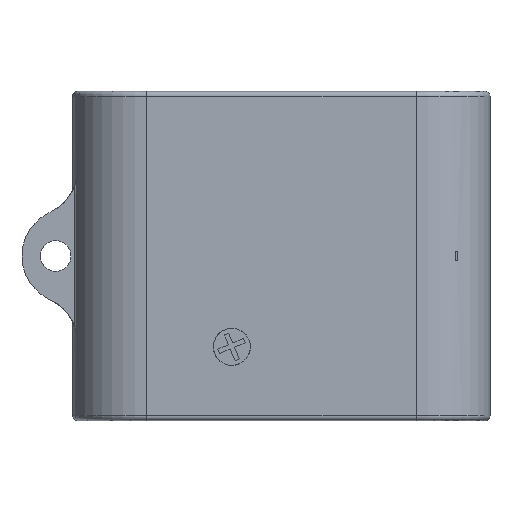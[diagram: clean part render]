
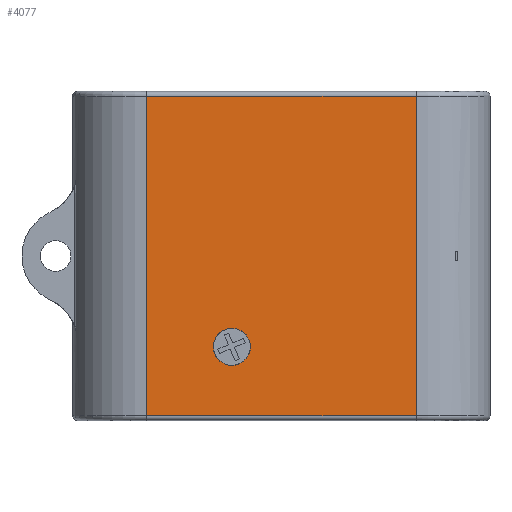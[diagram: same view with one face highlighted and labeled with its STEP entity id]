
A CAD part, front view. The second image highlights one B-rep face of the part: STEP entity #4077.
In plain terms, the highlighted planar face has unit normal (0, -1, 0).
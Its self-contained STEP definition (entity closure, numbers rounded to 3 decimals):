
#241 = CARTESIAN_POINT ( 'NONE',  ( 14.54, -7.2, -17.25 ) ) ;
#479 = ORIENTED_EDGE ( 'NONE', *, *, #3262, .T. ) ;
#689 = FACE_OUTER_BOUND ( 'NONE', #5852, .T. ) ;
#1161 = CARTESIAN_POINT ( 'NONE',  ( -14.54, -7.2, 17.25 ) ) ;
#1185 = CIRCLE ( 'NONE', #5117, 2. ) ;
#1492 = CARTESIAN_POINT ( 'NONE',  ( -14.54, -7.2, -17.25 ) ) ;
#1955 = VERTEX_POINT ( 'NONE', #6209 ) ;
#1966 = DIRECTION ( 'NONE',  ( 0., 0., -1. ) ) ;
#1984 = VECTOR ( 'NONE', #2813, 1000. ) ;
#2040 = DIRECTION ( 'NONE',  ( 1., 0., 0. ) ) ;
#2060 = CARTESIAN_POINT ( 'NONE',  ( -14.54, -7.2, -17.75 ) ) ;
#2146 = VERTEX_POINT ( 'NONE', #5862 ) ;
#2328 = DIRECTION ( 'NONE',  ( 0., -1., 0. ) ) ;
#2490 = CARTESIAN_POINT ( 'NONE',  ( -5.35, -7.2, -9.8 ) ) ;
#2563 = AXIS2_PLACEMENT_3D ( 'NONE', #5947, #2328, #5426 ) ;
#2595 = DIRECTION ( 'NONE',  ( 0., -1., 0. ) ) ;
#2813 = DIRECTION ( 'NONE',  ( 0., 0., 1. ) ) ;
#3011 = EDGE_CURVE ( 'NONE', #2146, #1955, #3536, .T. ) ;
#3078 = LINE ( 'NONE', #1161, #4440 ) ;
#3246 = EDGE_CURVE ( 'NONE', #5751, #5304, #3397, .T. ) ;
#3262 = EDGE_CURVE ( 'NONE', #4402, #4772, #4216, .T. ) ;
#3396 = EDGE_CURVE ( 'NONE', #2146, #4402, #6302, .T. ) ;
#3397 = CIRCLE ( 'NONE', #2563, 2. ) ;
#3438 = EDGE_CURVE ( 'NONE', #4772, #1955, #3078, .T. ) ;
#3536 = LINE ( 'NONE', #6568, #1984 ) ;
#3557 = VECTOR ( 'NONE', #2040, 1000. ) ;
#3653 = DIRECTION ( 'NONE',  ( -1., 0., 0. ) ) ;
#3961 = AXIS2_PLACEMENT_3D ( 'NONE', #2060, #2595, #5683 ) ;
#3962 = EDGE_CURVE ( 'NONE', #5304, #5751, #1185, .T. ) ;
#3980 = ORIENTED_EDGE ( 'NONE', *, *, #3438, .T. ) ;
#4077 = ADVANCED_FACE ( 'NONE', ( #4834, #689 ), #6166, .T. ) ;
#4168 = ORIENTED_EDGE ( 'NONE', *, *, #3246, .F. ) ;
#4216 = LINE ( 'NONE', #6559, #5416 ) ;
#4402 = VERTEX_POINT ( 'NONE', #241 ) ;
#4440 = VECTOR ( 'NONE', #3653, 1000. ) ;
#4772 = VERTEX_POINT ( 'NONE', #6353 ) ;
#4834 = FACE_BOUND ( 'NONE', #5857, .T. ) ;
#5117 = AXIS2_PLACEMENT_3D ( 'NONE', #2490, #5587, #1966 ) ;
#5304 = VERTEX_POINT ( 'NONE', #5750 ) ;
#5416 = VECTOR ( 'NONE', #6045, 1000. ) ;
#5426 = DIRECTION ( 'NONE',  ( 0., 0., -1. ) ) ;
#5587 = DIRECTION ( 'NONE',  ( 0., -1., 0. ) ) ;
#5683 = DIRECTION ( 'NONE',  ( 0., 0., -1. ) ) ;
#5750 = CARTESIAN_POINT ( 'NONE',  ( -5.35, -7.2, -7.8 ) ) ;
#5751 = VERTEX_POINT ( 'NONE', #6680 ) ;
#5852 = EDGE_LOOP ( 'NONE', ( #5998, #6599, #479, #3980 ) ) ;
#5857 = EDGE_LOOP ( 'NONE', ( #4168, #6532 ) ) ;
#5862 = CARTESIAN_POINT ( 'NONE',  ( -14.54, -7.2, -17.25 ) ) ;
#5947 = CARTESIAN_POINT ( 'NONE',  ( -5.35, -7.2, -9.8 ) ) ;
#5998 = ORIENTED_EDGE ( 'NONE', *, *, #3011, .F. ) ;
#6045 = DIRECTION ( 'NONE',  ( 0., 0., 1. ) ) ;
#6166 = PLANE ( 'NONE',  #3961 ) ;
#6209 = CARTESIAN_POINT ( 'NONE',  ( -14.54, -7.2, 17.25 ) ) ;
#6302 = LINE ( 'NONE', #1492, #3557 ) ;
#6353 = CARTESIAN_POINT ( 'NONE',  ( 14.54, -7.2, 17.25 ) ) ;
#6532 = ORIENTED_EDGE ( 'NONE', *, *, #3962, .F. ) ;
#6559 = CARTESIAN_POINT ( 'NONE',  ( 14.54, -7.2, -17.75 ) ) ;
#6568 = CARTESIAN_POINT ( 'NONE',  ( -14.54, -7.2, -17.75 ) ) ;
#6599 = ORIENTED_EDGE ( 'NONE', *, *, #3396, .T. ) ;
#6680 = CARTESIAN_POINT ( 'NONE',  ( -5.35, -7.2, -11.8 ) ) ;
